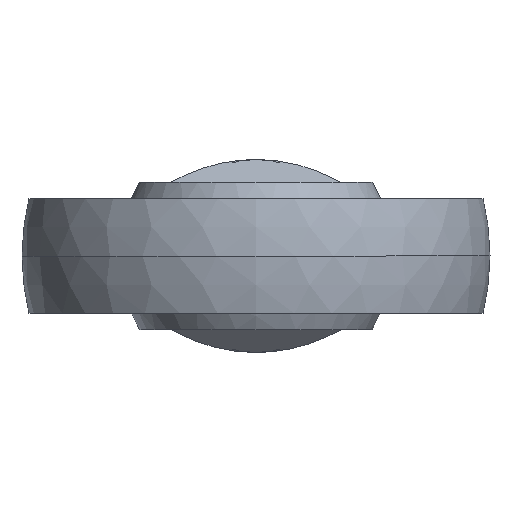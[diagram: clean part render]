
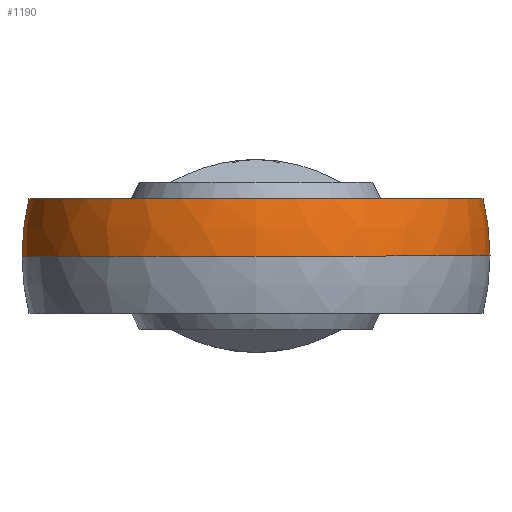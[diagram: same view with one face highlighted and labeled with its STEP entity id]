
A CAD part, left-side view. The second image highlights one B-rep face of the part: STEP entity #1190.
In plain terms, the highlighted spherical face has radius 51 mm.
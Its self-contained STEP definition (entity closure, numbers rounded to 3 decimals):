
#8 = EDGE_CURVE ( 'NONE', #289, #282, #59, .T. ) ;
#55 = DIRECTION ( 'NONE',  ( 0., -1., 0. ) ) ;
#56 = DIRECTION ( 'NONE',  ( 0., 0., 1. ) ) ;
#57 = CARTESIAN_POINT ( 'NONE',  ( 0., 0., 0. ) ) ;
#58 = AXIS2_PLACEMENT_3D ( 'NONE', #57, #56, #55 ) ;
#59 = CIRCLE ( 'NONE', #58, 51. ) ;
#90 = CARTESIAN_POINT ( 'NONE',  ( 29.542, 39.649, 12.5 ) ) ;
#91 = CARTESIAN_POINT ( 'NONE',  ( 29.542, 41.573, 0. ) ) ;
#92 = CARTESIAN_POINT ( 'NONE',  ( 29.542, -41.573, 0. ) ) ;
#145 = DIRECTION ( 'NONE',  ( 0., 1., 0. ) ) ;
#146 = DIRECTION ( 'NONE',  ( 1., 0., 0. ) ) ;
#147 = CARTESIAN_POINT ( 'NONE',  ( 29.542, 0., 0. ) ) ;
#148 = AXIS2_PLACEMENT_3D ( 'NONE', #147, #146, #145 ) ;
#149 = CIRCLE ( 'NONE', #148, 41.573 ) ;
#150 = CARTESIAN_POINT ( 'NONE',  ( -51., 0., 0. ) ) ;
#151 = DIRECTION ( 'NONE',  ( -1., 0., 0. ) ) ;
#152 = DIRECTION ( 'NONE',  ( 0., 0., 1. ) ) ;
#153 = CARTESIAN_POINT ( 'NONE',  ( 0., 0., 12.5 ) ) ;
#154 = AXIS2_PLACEMENT_3D ( 'NONE', #153, #152, #151 ) ;
#155 = CIRCLE ( 'NONE', #154, 49.444 ) ;
#281 = ORIENTED_EDGE ( 'NONE', *, *, #8, .T. ) ;
#282 = VERTEX_POINT ( 'NONE', #92 ) ;
#283 = ORIENTED_EDGE ( 'NONE', *, *, #295, .F. ) ;
#285 = ORIENTED_EDGE ( 'NONE', *, *, #288, .F. ) ;
#286 = VERTEX_POINT ( 'NONE', #91 ) ;
#287 = VERTEX_POINT ( 'NONE', #90 ) ;
#288 = EDGE_CURVE ( 'NONE', #287, #1191, #155, .T. ) ;
#289 = VERTEX_POINT ( 'NONE', #150 ) ;
#295 = EDGE_CURVE ( 'NONE', #286, #287, #149, .T. ) ;
#419 = DIRECTION ( 'NONE',  ( 0., 1., 0. ) ) ;
#420 = DIRECTION ( 'NONE',  ( 0., 0., 1. ) ) ;
#421 = AXIS2_PLACEMENT_3D ( 'NONE', #423, #420, #419 ) ;
#422 = CARTESIAN_POINT ( 'NONE',  ( 29.542, -39.649, 12.5 ) ) ;
#423 = CARTESIAN_POINT ( 'NONE',  ( 0., 0., 0. ) ) ;
#424 = SPHERICAL_SURFACE ( 'NONE', #421, 51. ) ;
#428 = FACE_OUTER_BOUND ( 'NONE', #1192, .T. ) ;
#457 = DIRECTION ( 'NONE',  ( 0., 1., 0. ) ) ;
#458 = DIRECTION ( 'NONE',  ( 1., 0., 0. ) ) ;
#459 = CARTESIAN_POINT ( 'NONE',  ( 29.542, 0., 0. ) ) ;
#460 = AXIS2_PLACEMENT_3D ( 'NONE', #459, #458, #457 ) ;
#461 = CIRCLE ( 'NONE', #460, 41.573 ) ;
#666 = CIRCLE ( 'NONE', #732, 51. ) ;
#729 = DIRECTION ( 'NONE',  ( -1., 0., 0. ) ) ;
#730 = DIRECTION ( 'NONE',  ( 0., 0., -1. ) ) ;
#731 = CARTESIAN_POINT ( 'NONE',  ( 0., 0., 0. ) ) ;
#732 = AXIS2_PLACEMENT_3D ( 'NONE', #731, #730, #729 ) ;
#1190 = ADVANCED_FACE ( 'NONE', ( #428 ), #424, .T. ) ;
#1191 = VERTEX_POINT ( 'NONE', #422 ) ;
#1192 = EDGE_LOOP ( 'NONE', ( #1193, #281, #1251, #285, #283 ) ) ;
#1193 = ORIENTED_EDGE ( 'NONE', *, *, #1329, .F. ) ;
#1213 = EDGE_CURVE ( 'NONE', #1191, #282, #461, .T. ) ;
#1251 = ORIENTED_EDGE ( 'NONE', *, *, #1213, .F. ) ;
#1329 = EDGE_CURVE ( 'NONE', #289, #286, #666, .T. ) ;
